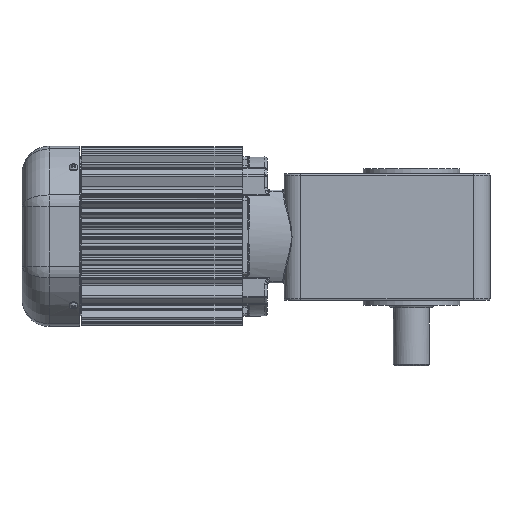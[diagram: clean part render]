
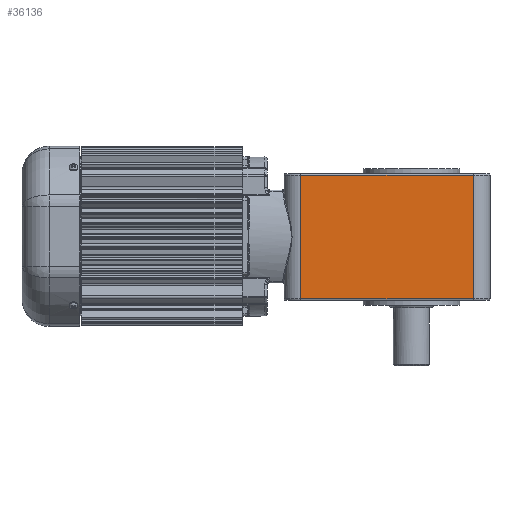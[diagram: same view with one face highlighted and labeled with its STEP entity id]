
A CAD part, front view. The second image highlights one B-rep face of the part: STEP entity #36136.
In plain terms, the highlighted planar face has unit normal (0, -1, 0).
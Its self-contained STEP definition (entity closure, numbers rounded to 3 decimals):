
#2495=LINE('',#61150,#4937);
#2693=LINE('',#64320,#5135);
#2694=LINE('',#64322,#5136);
#2695=LINE('',#64323,#5137);
#4937=VECTOR('',#47950,11.);
#5135=VECTOR('',#49114,11.);
#5136=VECTOR('',#49117,134.);
#5137=VECTOR('',#49118,134.);
#8249=FACE_OUTER_BOUND('',#10360,.T.);
#10360=EDGE_LOOP('',(#29518,#29519,#29520,#29521));
#15424=VERTEX_POINT('',#61146);
#15426=VERTEX_POINT('',#61149);
#15720=VERTEX_POINT('',#64316);
#15721=VERTEX_POINT('',#64318);
#19888=EDGE_CURVE('',#15424,#15426,#2495,.T.);
#20466=EDGE_CURVE('',#15720,#15721,#2693,.T.);
#20467=EDGE_CURVE('',#15720,#15424,#2694,.T.);
#20468=EDGE_CURVE('',#15426,#15721,#2695,.T.);
#29518=ORIENTED_EDGE('',*,*,#20467,.F.);
#29519=ORIENTED_EDGE('',*,*,#20466,.T.);
#29520=ORIENTED_EDGE('',*,*,#20468,.F.);
#29521=ORIENTED_EDGE('',*,*,#19888,.F.);
#32405=PLANE('',#39868);
#36136=ADVANCED_FACE('',(#8249),#32405,.T.);
#39868=AXIS2_PLACEMENT_3D('',#64321,#49115,#49116);
#47950=DIRECTION('',(0.,0.,1.));
#49114=DIRECTION('',(0.,0.,1.));
#49115=DIRECTION('center_axis',(0.,-1.,0.));
#49116=DIRECTION('ref_axis',(0.,0.,-1.));
#49117=DIRECTION('',(-1.,0.,0.));
#49118=DIRECTION('',(1.,0.,0.));
#61146=CARTESIAN_POINT('',(-145.313,-78.212,-29.254));
#61149=CARTESIAN_POINT('',(-145.313,-78.212,66.746));
#61150=CARTESIAN_POINT('',(-145.313,-78.212,55.746));
#64316=CARTESIAN_POINT('',(-11.313,-78.212,-29.254));
#64318=CARTESIAN_POINT('',(-11.313,-78.212,66.746));
#64320=CARTESIAN_POINT('',(-11.313,-78.212,55.746));
#64321=CARTESIAN_POINT('Origin',(-11.313,-78.212,57.246));
#64322=CARTESIAN_POINT('',(-11.313,-78.212,-29.254));
#64323=CARTESIAN_POINT('',(-145.313,-78.212,66.746));
